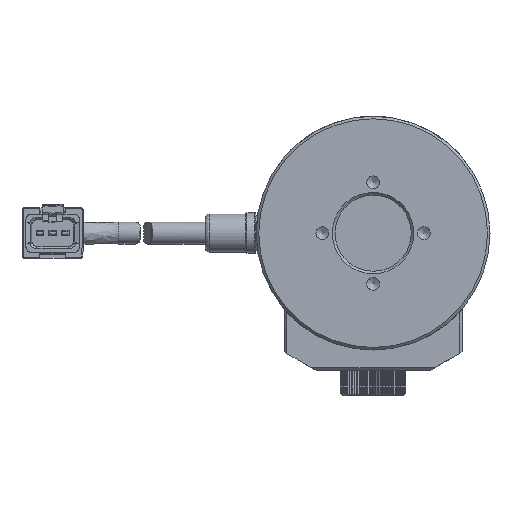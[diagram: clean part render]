
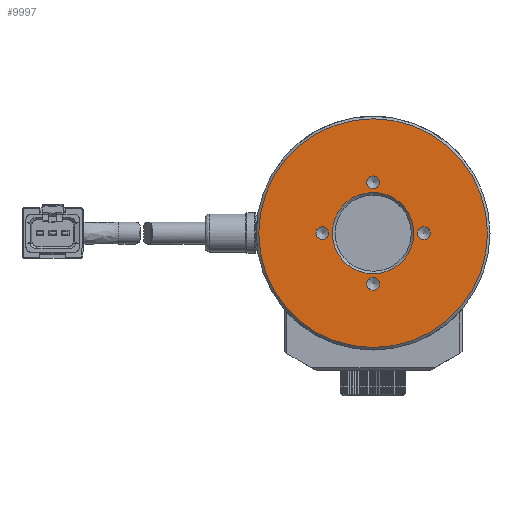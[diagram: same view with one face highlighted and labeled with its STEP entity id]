
A CAD part, front view. The second image highlights one B-rep face of the part: STEP entity #9997.
In plain terms, the highlighted planar face has unit normal (0, -1, 0).
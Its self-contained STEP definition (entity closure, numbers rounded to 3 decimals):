
#575 = DIRECTION ( 'NONE',  ( 0., 0., -1. ) ) ;
#979 = CARTESIAN_POINT ( 'NONE',  ( 0., 0., 0. ) ) ;
#1016 = ORIENTED_EDGE ( 'NONE', *, *, #11043, .F. ) ;
#1071 = CARTESIAN_POINT ( 'NONE',  ( 0., 0., -8. ) ) ;
#2414 = CIRCLE ( 'NONE', #34076, 1.25 ) ;
#2837 = DIRECTION ( 'NONE',  ( 0., -1., 0. ) ) ;
#3000 = EDGE_LOOP ( 'NONE', ( #9041 ) ) ;
#3006 = FACE_BOUND ( 'NONE', #15446, .T. ) ;
#3701 = CARTESIAN_POINT ( 'NONE',  ( -10., 0., -1.25 ) ) ;
#4154 = EDGE_LOOP ( 'NONE', ( #31411 ) ) ;
#4888 = EDGE_CURVE ( 'NONE', #5779, #5779, #2414, .T. ) ;
#5184 = DIRECTION ( 'NONE',  ( 0., 0., -1. ) ) ;
#5779 = VERTEX_POINT ( 'NONE', #3701 ) ;
#5864 = FACE_BOUND ( 'NONE', #9356, .T. ) ;
#7144 = CARTESIAN_POINT ( 'NONE',  ( 0., 0., 8.75 ) ) ;
#7812 = FACE_OUTER_BOUND ( 'NONE', #36693, .T. ) ;
#8864 = ORIENTED_EDGE ( 'NONE', *, *, #26243, .T. ) ;
#8919 = DIRECTION ( 'NONE',  ( 0., 1., 0. ) ) ;
#9041 = ORIENTED_EDGE ( 'NONE', *, *, #4888, .F. ) ;
#9050 = DIRECTION ( 'NONE',  ( 0., 0., -1. ) ) ;
#9316 = CIRCLE ( 'NONE', #24993, 22.5 ) ;
#9356 = EDGE_LOOP ( 'NONE', ( #35492 ) ) ;
#9823 = DIRECTION ( 'NONE',  ( 0., -1., 0. ) ) ;
#9997 = ADVANCED_FACE ( 'NONE', ( #18179, #7812, #17720, #3006, #5864, #34334 ), #39212, .T. ) ;
#10067 = ORIENTED_EDGE ( 'NONE', *, *, #34997, .T. ) ;
#10451 = DIRECTION ( 'NONE',  ( 0., -1., 0. ) ) ;
#11043 = EDGE_CURVE ( 'NONE', #29451, #29451, #20918, .T. ) ;
#11565 = CARTESIAN_POINT ( 'NONE',  ( 0., 0., 0. ) ) ;
#13197 = EDGE_CURVE ( 'NONE', #18501, #18501, #28865, .T. ) ;
#13285 = VERTEX_POINT ( 'NONE', #34733 ) ;
#14507 = DIRECTION ( 'NONE',  ( 0., -1., 0. ) ) ;
#14950 = CARTESIAN_POINT ( 'NONE',  ( 0., 0., 0. ) ) ;
#15065 = CARTESIAN_POINT ( 'NONE',  ( 0., 0., 10. ) ) ;
#15193 = AXIS2_PLACEMENT_3D ( 'NONE', #22065, #10451, #25285 ) ;
#15422 = AXIS2_PLACEMENT_3D ( 'NONE', #11565, #2837, #9050 ) ;
#15446 = EDGE_LOOP ( 'NONE', ( #1016 ) ) ;
#17720 = FACE_BOUND ( 'NONE', #3000, .T. ) ;
#18179 = FACE_BOUND ( 'NONE', #21940, .T. ) ;
#18501 = VERTEX_POINT ( 'NONE', #7144 ) ;
#19936 = VERTEX_POINT ( 'NONE', #35372 ) ;
#20662 = CIRCLE ( 'NONE', #23993, 8. ) ;
#20668 = EDGE_CURVE ( 'NONE', #13285, #13285, #24804, .T. ) ;
#20736 = CARTESIAN_POINT ( 'NONE',  ( -10., 0., 0. ) ) ;
#20768 = DIRECTION ( 'NONE',  ( 0., 0., -1. ) ) ;
#20918 = CIRCLE ( 'NONE', #27457, 1.25 ) ;
#21940 = EDGE_LOOP ( 'NONE', ( #8864 ) ) ;
#22065 = CARTESIAN_POINT ( 'NONE',  ( 10., 0., 0. ) ) ;
#23386 = DIRECTION ( 'NONE',  ( 0., 0., -1. ) ) ;
#23993 = AXIS2_PLACEMENT_3D ( 'NONE', #14950, #8919, #20768 ) ;
#24804 = CIRCLE ( 'NONE', #15193, 1.25 ) ;
#24993 = AXIS2_PLACEMENT_3D ( 'NONE', #979, #9823, #575 ) ;
#25285 = DIRECTION ( 'NONE',  ( 0., 0., -1. ) ) ;
#26243 = EDGE_CURVE ( 'NONE', #38587, #38587, #20662, .T. ) ;
#26478 = CARTESIAN_POINT ( 'NONE',  ( 0., 0., -10. ) ) ;
#27457 = AXIS2_PLACEMENT_3D ( 'NONE', #26478, #35517, #23386 ) ;
#28865 = CIRCLE ( 'NONE', #32330, 1.25 ) ;
#29451 = VERTEX_POINT ( 'NONE', #30614 ) ;
#29967 = DIRECTION ( 'NONE',  ( 0., 0., -1. ) ) ;
#30614 = CARTESIAN_POINT ( 'NONE',  ( 0., 0., -11.25 ) ) ;
#31411 = ORIENTED_EDGE ( 'NONE', *, *, #13197, .F. ) ;
#32330 = AXIS2_PLACEMENT_3D ( 'NONE', #15065, #33289, #29967 ) ;
#33289 = DIRECTION ( 'NONE',  ( 0., -1., 0. ) ) ;
#34076 = AXIS2_PLACEMENT_3D ( 'NONE', #20736, #14507, #5184 ) ;
#34334 = FACE_BOUND ( 'NONE', #4154, .T. ) ;
#34733 = CARTESIAN_POINT ( 'NONE',  ( 10., 0., -1.25 ) ) ;
#34997 = EDGE_CURVE ( 'NONE', #19936, #19936, #9316, .T. ) ;
#35372 = CARTESIAN_POINT ( 'NONE',  ( 0., 0., -22.5 ) ) ;
#35492 = ORIENTED_EDGE ( 'NONE', *, *, #20668, .F. ) ;
#35517 = DIRECTION ( 'NONE',  ( 0., -1., 0. ) ) ;
#36693 = EDGE_LOOP ( 'NONE', ( #10067 ) ) ;
#38587 = VERTEX_POINT ( 'NONE', #1071 ) ;
#39212 = PLANE ( 'NONE',  #15422 ) ;
